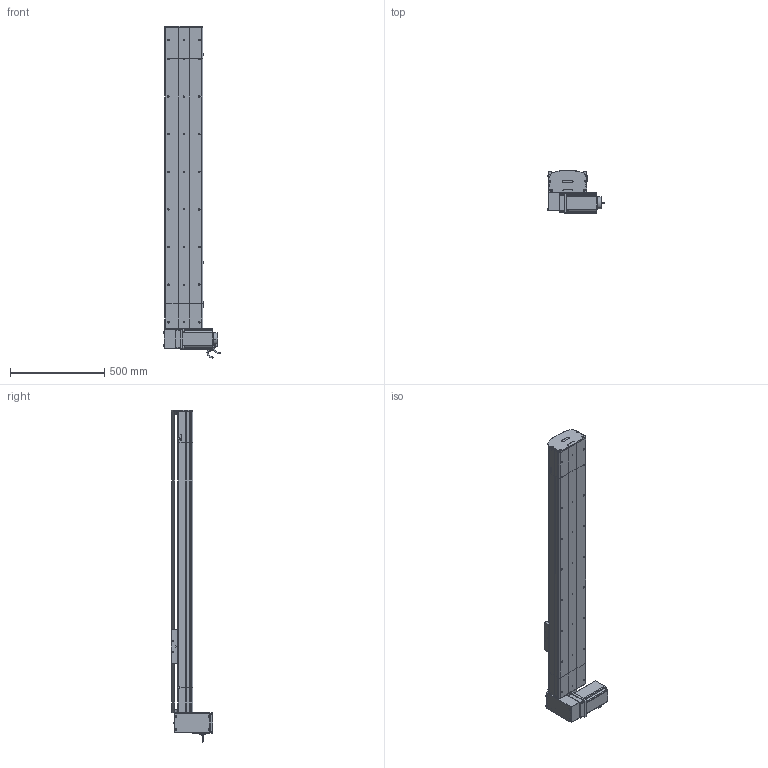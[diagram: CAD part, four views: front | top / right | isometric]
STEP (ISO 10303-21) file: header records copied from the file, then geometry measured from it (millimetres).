
FILE_DESCRIPTION (( 'STEP AP214' ), '1' );
FILE_NAME ('D20 TBH RU S1300.STEP', '2010-07-01T07:15:01', ( 'Conseil Régional Haute-Normandie' ), ( 'Conseil Régional Haute-Normandie' ), 'SwSTEP 2.0', 'SolidWorks 2010', '' );
FILE_SCHEMA (( 'AUTOMOTIVE_DESIGN' ));
Length unit declared in the file: millimetre
Products named in the file (40): avant 110BLDC170A-630x; Moteur motionking 110BLDC170A-640x; vis M5 L70_Default; couroie_Default; cache D20_Default; cache arbre D20_Default; Plaque racord D20LH_Default; Renvoi RU D20_Default; vis M5 L5_Default; corps 110BLDC170A-630x; plaque de  bout head D20B RU_Default; rail tail D20; vis M5 L8 90°_Default; vis M5 L25_Default; vis M5 L12_Default; tete d''axe poulie D20B; couvercle tail D20_Default; corpl tail D20 +100_Default; tail D20+100_Default; vis M8 L12_Default; Couroie tail D20_Default; plaque de  bout tail D20_Default; poulie tail D20_Default; clavette; Conecteur_Default; Conecteur2_Default; codeur 110BLDC170A-630x; guide D20B; Chariot D20B; chariot D20B_Default; D20 TBH RU S1300; couvercle D20 S1300_Default; corp D20 S1300_Default; Course B L1300_Default; corpl head D20_Default; head RU_Default; rail + couroie  D20 S1300; poulie head D20_Default; couvercle head D20_Default; rail head D20
Assembly tree (71 placements, depth 4):
  D20 TBH RU S1300
    Course B L1300_Default
      couvercle D20 S1300_Default
      corp D20 S1300_Default
      rail + couroie  D20 S1300
    tail D20+100_Default
      tete d''axe poulie D20B
      Couroie tail D20_Default
      vis M5 L25_Default  x2
      couvercle tail D20_Default
      vis M5 L8 90°_Default  x2
      vis M5 L12_Default  x4
      corpl tail D20 +100_Default
      plaque de  bout tail D20_Default
      poulie tail D20_Default
      rail tail D20
    chariot D20B_Default
      vis M5 L12_Default  x4
      Chariot D20B
      guide D20B  x2
    head RU_Default
      vis M5 L12_Default  x10
      vis M5 L5_Default  x4
      Moteur motionking 110BLDC170A-640x
        avant 110BLDC170A-630x
        clavette
        Conecteur2_Default
        Conecteur_Default
        codeur 110BLDC170A-630x
        corps 110BLDC170A-630x
      vis M5 L70_Default  x4
      vis M8 L12_Default  x4
      rail head D20
      poulie head D20_Default
      couroie_Default
      plaque de  bout head D20B RU_Default
      couvercle head D20_Default
      Plaque racord D20LH_Default
      Renvoi RU D20_Default
      vis M5 L25_Default  x2
      cache arbre D20_Default
      cache D20_Default  x2
      corpl head D20_Default
Bounding box: 304.2 x 223.2 x 1765 mm (x, y, z)
Volume: 15471490 mm3; surface area: 3626989.3 mm2
Topology: 95 solids, 95 shells, 2731 faces, 6873 edges, 4433 vertices
Faces by surface type: plane 1624, cylinder 783, bspline 136, cone 99, torus 89
Entity records: 85476 total; most frequent: CARTESIAN_POINT 27173, ORIENTED_EDGE 10402, DIRECTION 9850, EDGE_CURVE 5201, VERTEX_POINT 3419, VECTOR 3414, LINE 3414, AXIS2_PLACEMENT_3D 3218
